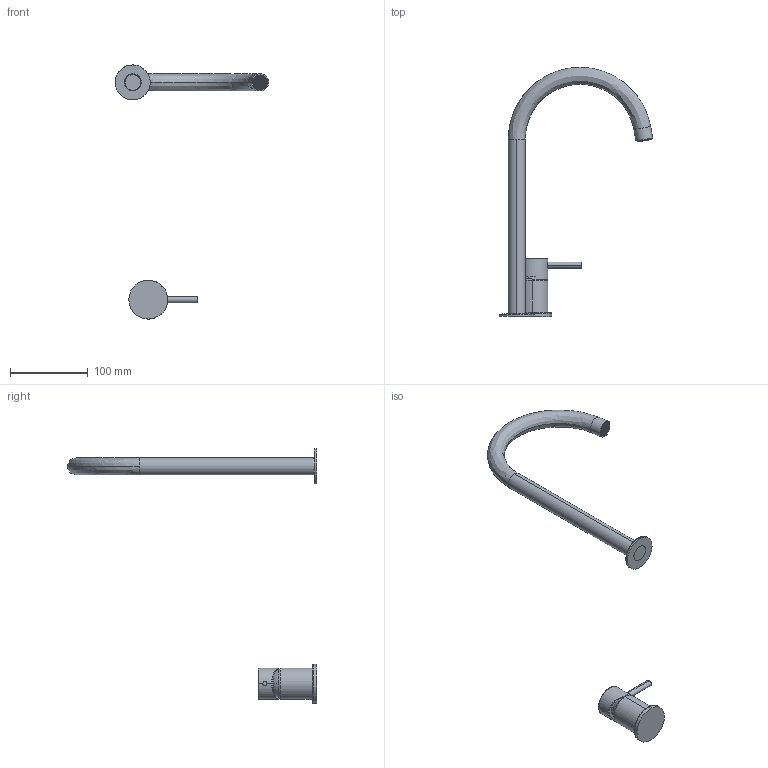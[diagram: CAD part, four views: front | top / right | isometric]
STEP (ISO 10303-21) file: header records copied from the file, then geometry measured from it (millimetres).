
FILE_DESCRIPTION (( 'STEP AP214' ), '1' );
FILE_NAME ('10310210 x architetti.STEP', '2024-11-13T12:55:28', ( '' ), ( '' ), 'SwSTEP 2.0', 'SolidWorks 2020', '' );
FILE_SCHEMA (( 'AUTOMOTIVE_DESIGN' ));
Length unit declared in the file: millimetre
Products named in the file (3): 103102 x architetti; 10310210 x architetti; F0005599       
Assembly tree (2 placements, depth 2):
  10310210 x architetti
    103102 x architetti
    F0005599       
Bounding box: 197.7 x 321 x 327.5 mm (x, y, z)
Volume: 287061.1 mm3; surface area: 58167 mm2
Topology: 4 solids, 6 shells, 3960 faces, 11418 edges, 7393 vertices
Faces by surface type: plane 3353, cylinder 445, bspline 140, cone 18, torus 4
Entity records: 159624 total; most frequent: CARTESIAN_POINT 49619, ORIENTED_EDGE 22836, DIRECTION 13883, EDGE_CURVE 11418, VERTEX_POINT 7393, LINE 5237, VECTOR 5237, B_SPLINE_CURVE_WITH_KNOTS 5037
